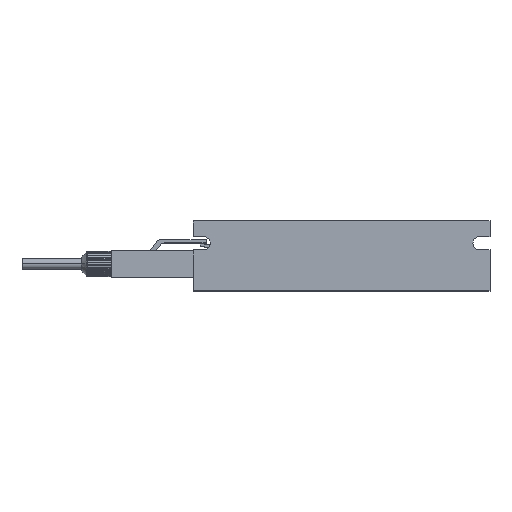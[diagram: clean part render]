
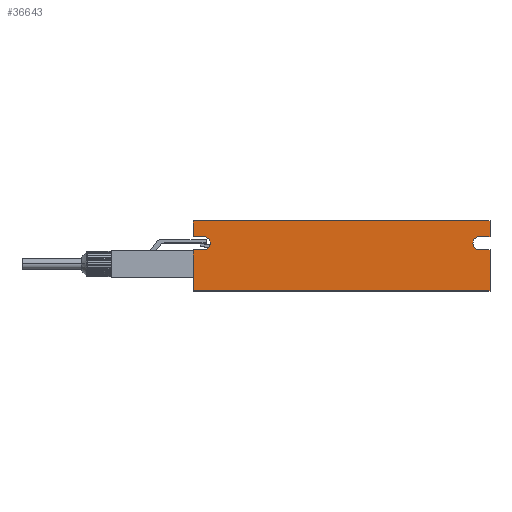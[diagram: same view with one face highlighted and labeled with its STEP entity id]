
A CAD part, top view. The second image highlights one B-rep face of the part: STEP entity #36643.
In plain terms, the highlighted planar face has unit normal (0, 0, 1).
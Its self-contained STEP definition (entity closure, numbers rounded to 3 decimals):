
#1927 = CARTESIAN_POINT ( 'NONE',  ( 134.939, -46.342, 92.359 ) ) ;
#2331 = CARTESIAN_POINT ( 'NONE',  ( 34.939, -46.342, 92.359 ) ) ;
#4182 = VERTEX_POINT ( 'NONE', #22985 ) ;
#4799 = LINE ( 'NONE', #41700, #35806 ) ;
#7194 = CARTESIAN_POINT ( 'NONE',  ( 34.939, -46.342, 92.359 ) ) ;
#8416 = VECTOR ( 'NONE', #33021, 1000. ) ;
#8595 = DIRECTION ( 'NONE',  ( -1., 0., 0. ) ) ;
#8867 = EDGE_CURVE ( 'NONE', #53177, #25599, #14203, .T. ) ;
#9427 = DIRECTION ( 'NONE',  ( -1., 0., 0. ) ) ;
#9631 = VECTOR ( 'NONE', #67557, 1000. ) ;
#9844 = DIRECTION ( 'NONE',  ( 0., 1., 0. ) ) ;
#11574 = CARTESIAN_POINT ( 'NONE',  ( 134.939, -46.342, 92.359 ) ) ;
#12661 = DIRECTION ( 'NONE',  ( -1., 0., 0. ) ) ;
#13574 = VECTOR ( 'NONE', #9427, 1000. ) ;
#14203 = LINE ( 'NONE', #33180, #8416 ) ;
#14673 = VERTEX_POINT ( 'NONE', #30872 ) ;
#15606 = VERTEX_POINT ( 'NONE', #67783 ) ;
#16977 = DIRECTION ( 'NONE',  ( 0., 0., 1. ) ) ;
#17407 = CARTESIAN_POINT ( 'NONE',  ( 38.439, -28.092, 92.359 ) ) ;
#18063 = ORIENTED_EDGE ( 'NONE', *, *, #33836, .F. ) ;
#19221 = VERTEX_POINT ( 'NONE', #17407 ) ;
#20342 = DIRECTION ( 'NONE',  ( -1., 0., 0. ) ) ;
#20897 = LINE ( 'NONE', #53023, #63060 ) ;
#20933 = CARTESIAN_POINT ( 'NONE',  ( 38.439, -32.592, 92.359 ) ) ;
#22179 = VERTEX_POINT ( 'NONE', #28595 ) ;
#22410 = LINE ( 'NONE', #67660, #62843 ) ;
#22985 = CARTESIAN_POINT ( 'NONE',  ( 131.439, -32.592, 92.359 ) ) ;
#23110 = ORIENTED_EDGE ( 'NONE', *, *, #65589, .F. ) ;
#23202 = CARTESIAN_POINT ( 'NONE',  ( 34.939, -46.342, 92.359 ) ) ;
#23329 = VECTOR ( 'NONE', #39196, 1000. ) ;
#25182 = CARTESIAN_POINT ( 'NONE',  ( 134.939, -28.092, 92.359 ) ) ;
#25599 = VERTEX_POINT ( 'NONE', #66154 ) ;
#26041 = CARTESIAN_POINT ( 'NONE',  ( 38.439, -30.342, 92.359 ) ) ;
#28236 = VERTEX_POINT ( 'NONE', #42225 ) ;
#28345 = EDGE_CURVE ( 'NONE', #61277, #28236, #47115, .T. ) ;
#28595 = CARTESIAN_POINT ( 'NONE',  ( 134.939, -22.842, 92.359 ) ) ;
#30872 = CARTESIAN_POINT ( 'NONE',  ( 134.939, -46.342, 92.359 ) ) ;
#31619 = DIRECTION ( 'NONE',  ( -1., 0., 0. ) ) ;
#32362 = ORIENTED_EDGE ( 'NONE', *, *, #37527, .T. ) ;
#33021 = DIRECTION ( 'NONE',  ( -1., 0., 0. ) ) ;
#33180 = CARTESIAN_POINT ( 'NONE',  ( 131.439, -28.092, 92.359 ) ) ;
#33836 = EDGE_CURVE ( 'NONE', #14673, #61277, #4799, .T. ) ;
#34425 = ORIENTED_EDGE ( 'NONE', *, *, #61534, .F. ) ;
#35061 = AXIS2_PLACEMENT_3D ( 'NONE', #7194, #45843, #12661 ) ;
#35806 = VECTOR ( 'NONE', #8595, 1000. ) ;
#36004 = VERTEX_POINT ( 'NONE', #47833 ) ;
#36262 = VECTOR ( 'NONE', #46379, 1000. ) ;
#36643 = ADVANCED_FACE ( 'NONE', ( #41374 ), #56471, .F. ) ;
#37527 = EDGE_CURVE ( 'NONE', #14673, #36004, #38237, .T. ) ;
#38237 = LINE ( 'NONE', #11574, #23329 ) ;
#39196 = DIRECTION ( 'NONE',  ( 0., 1., 0. ) ) ;
#39846 = EDGE_LOOP ( 'NONE', ( #34425, #46786, #65990, #18063, #32362, #71006, #23110, #62254, #50731, #46524, #66532, #39980 ) ) ;
#39980 = ORIENTED_EDGE ( 'NONE', *, *, #47978, .F. ) ;
#41374 = FACE_OUTER_BOUND ( 'NONE', #39846, .T. ) ;
#41700 = CARTESIAN_POINT ( 'NONE',  ( 34.939, -46.342, 92.359 ) ) ;
#41779 = VERTEX_POINT ( 'NONE', #20933 ) ;
#42225 = CARTESIAN_POINT ( 'NONE',  ( 34.939, -32.592, 92.359 ) ) ;
#42537 = CARTESIAN_POINT ( 'NONE',  ( 34.939, -22.842, 92.359 ) ) ;
#43072 = VECTOR ( 'NONE', #66861, 1000. ) ;
#43079 = LINE ( 'NONE', #42537, #13574 ) ;
#43295 = AXIS2_PLACEMENT_3D ( 'NONE', #50170, #16977, #55563 ) ;
#45843 = DIRECTION ( 'NONE',  ( 0., 0., -1. ) ) ;
#46086 = DIRECTION ( 'NONE',  ( 1., 0., 0. ) ) ;
#46379 = DIRECTION ( 'NONE',  ( 0., 1., 0. ) ) ;
#46524 = ORIENTED_EDGE ( 'NONE', *, *, #70846, .T. ) ;
#46786 = ORIENTED_EDGE ( 'NONE', *, *, #69919, .F. ) ;
#47115 = LINE ( 'NONE', #48450, #63850 ) ;
#47833 = CARTESIAN_POINT ( 'NONE',  ( 134.939, -32.592, 92.359 ) ) ;
#47978 = EDGE_CURVE ( 'NONE', #19221, #15606, #20897, .T. ) ;
#48450 = CARTESIAN_POINT ( 'NONE',  ( 34.939, -46.342, 92.359 ) ) ;
#50170 = CARTESIAN_POINT ( 'NONE',  ( 131.439, -30.342, 92.359 ) ) ;
#50731 = ORIENTED_EDGE ( 'NONE', *, *, #68017, .T. ) ;
#50767 = CARTESIAN_POINT ( 'NONE',  ( 34.939, -22.842, 92.359 ) ) ;
#51762 = CIRCLE ( 'NONE', #63425, 2.25 ) ;
#52668 = LINE ( 'NONE', #2331, #36262 ) ;
#52859 = VERTEX_POINT ( 'NONE', #50767 ) ;
#53023 = CARTESIAN_POINT ( 'NONE',  ( 38.439, -28.092, 92.359 ) ) ;
#53177 = VERTEX_POINT ( 'NONE', #25182 ) ;
#55563 = DIRECTION ( 'NONE',  ( -1., 0., 0. ) ) ;
#56471 = PLANE ( 'NONE',  #35061 ) ;
#59175 = LINE ( 'NONE', #61329, #43072 ) ;
#61277 = VERTEX_POINT ( 'NONE', #23202 ) ;
#61329 = CARTESIAN_POINT ( 'NONE',  ( 131.439, -32.592, 92.359 ) ) ;
#61534 = EDGE_CURVE ( 'NONE', #41779, #19221, #51762, .T. ) ;
#61850 = CIRCLE ( 'NONE', #43295, 2.25 ) ;
#62254 = ORIENTED_EDGE ( 'NONE', *, *, #8867, .F. ) ;
#62843 = VECTOR ( 'NONE', #46086, 1000. ) ;
#63060 = VECTOR ( 'NONE', #20342, 1000. ) ;
#63425 = AXIS2_PLACEMENT_3D ( 'NONE', #26041, #64573, #31619 ) ;
#63850 = VECTOR ( 'NONE', #9844, 1000. ) ;
#64573 = DIRECTION ( 'NONE',  ( 0., 0., 1. ) ) ;
#65345 = EDGE_CURVE ( 'NONE', #15606, #52859, #52668, .T. ) ;
#65589 = EDGE_CURVE ( 'NONE', #25599, #4182, #61850, .T. ) ;
#65984 = EDGE_CURVE ( 'NONE', #4182, #36004, #59175, .T. ) ;
#65990 = ORIENTED_EDGE ( 'NONE', *, *, #28345, .F. ) ;
#66154 = CARTESIAN_POINT ( 'NONE',  ( 131.439, -28.092, 92.359 ) ) ;
#66532 = ORIENTED_EDGE ( 'NONE', *, *, #65345, .F. ) ;
#66861 = DIRECTION ( 'NONE',  ( 1., 0., 0. ) ) ;
#67557 = DIRECTION ( 'NONE',  ( 0., 1., 0. ) ) ;
#67660 = CARTESIAN_POINT ( 'NONE',  ( 38.439, -32.592, 92.359 ) ) ;
#67783 = CARTESIAN_POINT ( 'NONE',  ( 34.939, -28.092, 92.359 ) ) ;
#68017 = EDGE_CURVE ( 'NONE', #53177, #22179, #69729, .T. ) ;
#69729 = LINE ( 'NONE', #1927, #9631 ) ;
#69919 = EDGE_CURVE ( 'NONE', #28236, #41779, #22410, .T. ) ;
#70846 = EDGE_CURVE ( 'NONE', #22179, #52859, #43079, .T. ) ;
#71006 = ORIENTED_EDGE ( 'NONE', *, *, #65984, .F. ) ;
